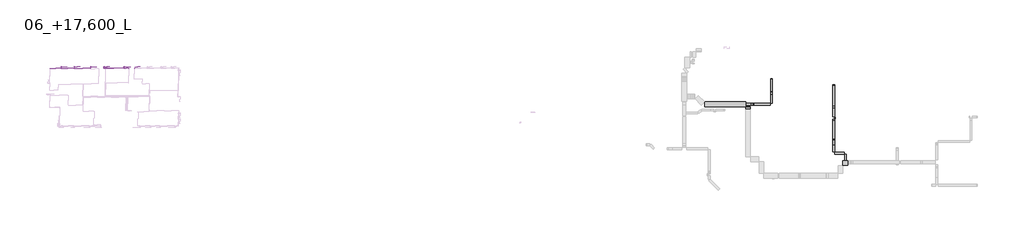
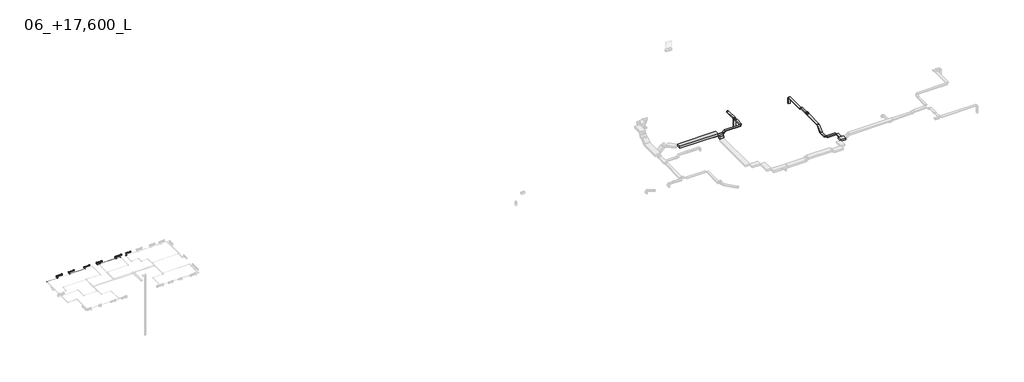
# One storey, part 6 of 7: 26 pipe fittings, 25 duct segments, 22 pipe segments, 6 proxies, 5 valves.
"""IFC4 building model written with IfcOpenShell, lengths in millimetres."""

from ifc_helpers import new_model, si_unit, point, frame, frame_2d, origin, place, context, project, spatial, polyline, circle_curve, trimmed, segment, composite_curve, outline, extrude, transform, mapped, element, save
from components import mechanical_equipment_fc217036, mechanical_equipment_c0c35615, mechanical_equipment_c68842d5, mechanical_equipment_393b7680, pipe_fitting_44bd76dc, pipe_fitting_8f811e63, pipe_fitting_d927fdfb, valve_d3faaedd, valve_8453c3c0

model = new_model("IFC4")

# Units and contexts
model_context = context("Model", 3, world=origin())
ifc_project = project(units=[si_unit("LENGTHUNIT", "METRE", prefix="MILLI")], contexts=[model_context])

# Site, building, storey
site = spatial("IfcSite", under=ifc_project)
building = spatial("IfcBuilding", under=site)
storey = spatial("IfcBuildingStorey", under=building, Name="06_+17,600_L", Elevation=17600.0)

# Proxies
placement = place(None, origin())
mechanical_equipment_shape = mechanical_equipment_fc217036(model_context)
element("IfcBuildingElementProxy", 1, Name="EVRA CV Д : 22-300-1800", ObjectType="EVRA CV Д : 22-300-1800", at=placement, inside=storey, context=model_context, shape_type="MappedRepresentation", body=[
    mapped(mechanical_equipment_shape, transform((67960.0, 128438.5368898, 31400.0), x_axis=(1.0, 0.0, 0.0), y_axis=(0.0, 1.0, 0.0), z_axis=(0.0, 0.0, 1.0))),
])
mechanical_equipment_2_shape = mechanical_equipment_c0c35615(model_context)
element("IfcBuildingElementProxy", 2, Name="EVRA CV Д : 21-300-1600", ObjectType="EVRA CV Д : 21-300-1600", at=placement, inside=storey, context=model_context, shape_type="MappedRepresentation", body=[
    mapped(mechanical_equipment_2_shape, transform((54900.0, 128438.5368898, 31400.0), x_axis=(1.0, 0.0, 0.0), y_axis=(0.0, 1.0, 0.0), z_axis=(0.0, 0.0, 1.0))),
])
element("IfcBuildingElementProxy", 3, Name="EVRA CV Д : 21-300-1600", ObjectType="EVRA CV Д : 21-300-1600", at=placement, inside=storey, context=model_context, shape_type="MappedRepresentation", body=[
    mapped(mechanical_equipment_2_shape, transform((62650.0, 128438.5368898, 31400.0), x_axis=(1.0, 0.0, 0.0), y_axis=(0.0, 1.0, 0.0), z_axis=(0.0, 0.0, 1.0))),
])
mechanical_equipment_3_shape = mechanical_equipment_c68842d5(model_context)
element("IfcBuildingElementProxy", 4, Name="EVRA CV Д : 21-300-1400", ObjectType="EVRA CV Д : 21-300-1400", at=placement, inside=storey, context=model_context, shape_type="MappedRepresentation", body=[
    mapped(mechanical_equipment_3_shape, transform((70700.0, 128438.5368898, 31400.0), x_axis=(1.0, 0.0, 0.0), y_axis=(0.0, 1.0, 0.0), z_axis=(0.0, 0.0, 1.0))),
])
mechanical_equipment_4_shape = mechanical_equipment_393b7680(model_context)
element("IfcBuildingElementProxy", 5, Name="EVRA CV Д : 22-300-1600", ObjectType="EVRA CV Д : 22-300-1600", at=placement, inside=storey, context=model_context, shape_type="MappedRepresentation", body=[
    mapped(mechanical_equipment_4_shape, transform((51500.0, 128438.5368898, 31400.0), x_axis=(1.0, 0.0, 0.0), y_axis=(0.0, 1.0, 0.0), z_axis=(0.0, 0.0, 1.0))),
])
element("IfcBuildingElementProxy", 6, Name="EVRA CV Д : 22-300-1600", ObjectType="EVRA CV Д : 22-300-1600", at=placement, inside=storey, context=model_context, shape_type="MappedRepresentation", body=[
    mapped(mechanical_equipment_4_shape, transform((59200.0, 128438.5368898, 31400.0), x_axis=(1.0, 0.0, 0.0), y_axis=(0.0, 1.0, 0.0), z_axis=(0.0, 0.0, 1.0))),
])

# Duct segments
element("IfcDuctSegment", 7, ObjectType="ADSK_Без огнезащиты_Врезки_ГОСТ 14918-80", at=placement, inside=storey, context=model_context, shape_type="SweptSolid", body=[
    extrude(outline(polyline([(236005.1831845, 121064.9589173), (236505.1831845, 121064.9589173), (236505.1831845, 118934.4589168), (236005.1831845, 118934.4589168), (236005.1831845, 121064.9589173)])), frame((0.0, 0.0, 17149.6001016), z_axis=(0.0, 0.0, 1.0), x_axis=(1.0, 0.0, 0.0)), (0.0, 0.0, 1.0), 250.0),
])
element("IfcDuctSegment", 8, ObjectType="ADSK_Без огнезащиты_Врезки_ГОСТ 14918-80", at=placement, inside=storey, context=model_context, shape_type="SweptSolid", body=[
    extrude(outline(polyline([(250.0, -154.5084972), (250.0, -404.5084972), (-250.0, -404.5084972), (-250.0, -154.5084972), (250.0, -154.5084972)])), frame((252455.1831845, 108326.3575838, 15653.6139595), z_axis=(0.0, 0.7071067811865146, 0.7071067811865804), x_axis=(1.0, 0.0, 0.0)), (0.0, 0.0, 1.0), 1976.3455967),
])
element("IfcDuctSegment", 9, ObjectType="ADSK_Без огнезащиты_Врезки_ГОСТ 14918-80", at=placement, inside=storey, context=model_context, shape_type="SweptSolid", body=[
    extrude(outline(polyline([(0.0, -500.0), (0.0, 0.0), (456.0660172, 0.0), (456.0660172, -500.0), (0.0, -500.0)])), frame((252705.1831845, 117937.8142558, 16837.8679656), z_axis=(0.0, 0.707106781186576, 0.707106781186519), x_axis=(0.0, -0.707106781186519, 0.707106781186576)), (0.0, 0.0, 1.0), 250.0),
])
element("IfcDuctSegment", 10, ObjectType="ADSK_Без огнезащиты_Врезки_ГОСТ 14918-80", at=placement, inside=storey, context=model_context, shape_type="SweptSolid", body=[
    extrude(outline(polyline([(252205.1831845, 123492.4229855), (252705.1831845, 123492.4229855), (252705.1831845, 118149.9462902), (252205.1831845, 118149.9462902), (252205.1831845, 123492.4229855)])), frame((0.0, 0.0, 16750.0), z_axis=(0.0, 0.0, 1.0), x_axis=(1.0, 0.0, 0.0)), (0.0, 0.0, 1.0), 250.0),
])
element("IfcDuctSegment", 11, ObjectType="ADSK_Без огнезащиты_Врезки_ГОСТ 14918-80", at=placement, inside=storey, context=model_context, shape_type="SweptSolid", body=[
    extrude(outline(polyline([(252205.1831845, 123542.4229855), (252205.1831845, 123792.4229855), (252705.1831845, 123792.4229855), (252705.1831845, 123542.4229855), (252205.1831845, 123542.4229855)])), frame((0.0, 0.0, 15000.0), z_axis=(0.0, 0.0, 1.0), x_axis=(1.0, 0.0, 0.0)), (0.0, 0.0, 1.0), 1700.0),
])
element("IfcDuctSegment", 12, ObjectType="ADSK_Без огнезащиты_Врезки_ГОСТ 14918-80", at=placement, inside=storey, context=model_context, shape_type="SweptSolid", body=[
    extrude(outline(polyline([(235955.1831845, 118884.4589168), (235955.1831845, 118384.4589168), (231702.2706596, 118384.4589168), (231702.2706596, 118884.4589168), (235955.1831845, 118884.4589168)])), frame((0.0, 0.0, 17149.6001016), z_axis=(0.0, 0.0, 1.0), x_axis=(1.0, 0.0, 0.0)), (0.0, 0.0, 1.0), 250.0),
])
element("IfcDuctSegment", 13, ObjectType="ADSK_Без огнезащиты_Врезки_ГОСТ 14918-80", at=placement, inside=storey, context=model_context, shape_type="SweptSolid", body=[
    extrude(outline(polyline([(230720.9551889, 117926.0442963), (230720.9551889, 117426.0442963), (229520.9551889, 117426.0442963), (229520.9551889, 117926.0442963), (230720.9551889, 117926.0442963)])), frame((0.0, 0.0, 16200.0), z_axis=(0.0, 0.0, 1.0), x_axis=(1.0, 0.0, 0.0)), (0.0, 0.0, 1.0), 675.0),
])
element("IfcDuctSegment", 14, ObjectType="ADSK_Без огнезащиты_Врезки_ГОСТ 14918-80", at=placement, inside=storey, context=model_context, shape_type="SweptSolid", body=[
    extrude(outline(polyline([(230720.9551889, 117976.0442963), (229520.9551889, 117976.0442963), (229520.9551889, 118009.4589168), (230720.9551889, 118009.4589168), (230720.9551889, 117976.0442963)])), frame((0.0, 0.0, 16925.0), z_axis=(0.0, 0.0, 1.0), x_axis=(1.0, 0.0, 0.0)), (0.0, 0.0, 1.0), 500.0),
])
element("IfcDuctSegment", 15, ObjectType="ADSK_Без огнезащиты_Врезки_ГОСТ 14918-80", at=placement, inside=storey, context=model_context, shape_type="SweptSolid", body=[
    extrude(outline(polyline([(229470.9551889, 119259.4589168), (229470.9551889, 118059.4589168), (218819.4580731, 118059.4589168), (218819.4580731, 119259.4589168), (229470.9551889, 119259.4589168)])), frame((0.0, 0.0, 16925.0), z_axis=(0.0, 0.0, 1.0), x_axis=(1.0, 0.0, 0.0)), (0.0, 0.0, 1.0), 500.0),
])
element("IfcDuctSegment", 16, ObjectType="ADSK_Без огнезащиты_Врезки_ГОСТ 14918-80", at=placement, inside=storey, context=model_context, shape_type="SweptSolid", body=[
    extrude(outline(polyline([(125.0000001, -529.5084972), (-124.9999999, -529.5084972), (-124.9999999, -29.5084972), (125.0000001, -29.5084972), (125.0000001, -529.5084972)])), frame((231006.4394978, 118913.967414, 16651.2563133), z_axis=(0.7071067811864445, 0.0, 0.7071067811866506), x_axis=(0.7071067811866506, 0.0, -0.7071067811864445)), (0.0, 0.0, 1.0), 809.053866),
])
element("IfcDuctSegment", 17, ObjectType="ADSK_Без огнезащиты_Врезки_ГОСТ 14918-80", at=placement, inside=storey, context=model_context, shape_type="SweptSolid", body=[
    extrude(outline(polyline([(228323.0764034, 118384.4589168), (228323.0764034, 118884.4589168), (230882.6958111, 118884.4589168), (230882.6958111, 118384.4589168), (228323.0764034, 118384.4589168)])), frame((0.0, 0.0, 16475.0), z_axis=(0.0, 0.0, 1.0), x_axis=(1.0, 0.0, 0.0)), (0.0, 0.0, 1.0), 250.0),
])
element("IfcDuctSegment", 18, ObjectType="ADSK_Без огнезащиты_Врезки_ГОСТ 14918-80", at=placement, inside=storey, context=model_context, shape_type="SweptSolid", body=[
    extrude(outline(polyline([(228273.0764034, 118384.4589168), (228023.0764034, 118384.4589168), (228023.0764034, 118884.4589168), (228273.0764034, 118884.4589168), (228273.0764034, 118384.4589168)])), frame((0.0, 0.0, 16775.0), z_axis=(0.0, 0.0, 1.0), x_axis=(1.0, 0.0, 0.0)), (0.0, 0.0, 1.0), 130.0),
])
element("IfcDuctSegment", 19, ObjectType="ADSK_Без огнезащиты_Врезки_ГОСТ 14918-80", at=placement, inside=storey, context=model_context, shape_type="SweptSolid", body=[
    extrude(outline(polyline([(236505.1831845, 125252.4963208), (236005.1831845, 125252.4963208), (236005.1831845, 125257.4963208), (236505.1831845, 125257.4963208), (236505.1831845, 125252.4963208)])), frame((0.0, 0.0, 17149.6001016), z_axis=(0.0, 0.0, 1.0), x_axis=(1.0, 0.0, 0.0)), (0.0, 0.0, 1.0), 250.0),
])
element("IfcDuctSegment", 20, ObjectType="ADSK_Без огнезащиты_Врезки_ГОСТ 14918-80", at=placement, inside=storey, context=model_context, shape_type="SweptSolid", body=[
    extrude(outline(polyline([(252860.1831845, 114821.4903348), (252860.1831845, 115321.4903348), (252865.1831845, 115321.4903348), (252865.1831845, 114821.4903348), (252860.1831845, 114821.4903348)])), frame((0.0, 0.0, 17175.0), z_axis=(0.0, 0.0, 1.0), x_axis=(1.0, 0.0, 0.0)), (0.0, 0.0, 1.0), 250.0),
])
element("IfcDuctSegment", 21, ObjectType="ADSK_Без огнезащиты_Врезки_ГОСТ 14918-80", at=placement, inside=storey, context=model_context, shape_type="SweptSolid", body=[
    extrude(outline(polyline([(252705.1831845, 114425.5425232), (252205.1831845, 114425.5425232), (252205.1831845, 114796.4903348), (252705.1831845, 114796.4903348), (252705.1831845, 114425.5425232)])), frame((0.0, 0.0, 17175.0), z_axis=(0.0, 0.0, 1.0), x_axis=(1.0, 0.0, 0.0)), (0.0, 0.0, 1.0), 250.0),
])
element("IfcDuctSegment", 22, ObjectType="ADSK_Без огнезащиты_Врезки_ГОСТ 14918-80", at=placement, inside=storey, context=model_context, shape_type="SweptSolid", body=[
    extrude(outline(polyline([(252730.1831845, 114821.4903348), (252730.1831845, 115321.4903348), (252735.1831845, 115321.4903348), (252735.1831845, 114821.4903348), (252730.1831845, 114821.4903348)])), frame((0.0, 0.0, 17175.0), z_axis=(0.0, 0.0, 1.0), x_axis=(1.0, 0.0, 0.0)), (0.0, 0.0, 1.0), 250.0),
])
element("IfcDuctSegment", 23, ObjectType="ADSK_Без огнезащиты_Врезки_ГОСТ 14918-80", at=placement, inside=storey, context=model_context, shape_type="SweptSolid", body=[
    extrude(outline(polyline([(252205.1831845, 117579.9715434), (252705.1831845, 117579.9715434), (252705.1831845, 115346.4903348), (252205.1831845, 115346.4903348), (252205.1831845, 117579.9715434)])), frame((0.0, 0.0, 17175.0), z_axis=(0.0, 0.0, 1.0), x_axis=(1.0, 0.0, 0.0)), (0.0, 0.0, 1.0), 250.0),
])
element("IfcDuctSegment", 24, ObjectType="ADSK_Без огнезащиты_Врезки_ГОСТ 14918-80", at=placement, inside=storey, context=model_context, shape_type="SweptSolid", body=[
    extrude(outline(polyline([(236505.1831845, 122036.1821747), (236005.1831845, 122036.1821747), (236005.1831845, 125127.4963208), (236505.1831845, 125127.4963208), (236505.1831845, 122036.1821747)])), frame((0.0, 0.0, 17149.6001016), z_axis=(0.0, 0.0, 1.0), x_axis=(1.0, 0.0, 0.0)), (0.0, 0.0, 1.0), 250.0),
])
element("IfcDuctSegment", 25, ObjectType="ADSK_Без огнезащиты_Врезки_ГОСТ 14918-80", at=placement, inside=storey, context=model_context, shape_type="SweptSolid", body=[
    extrude(outline(polyline([(236505.1831845, 122011.1821747), (236505.1831845, 121761.1821747), (236005.1831845, 121761.1821747), (236005.1831845, 122011.1821747), (236505.1831845, 122011.1821747)])), frame((0.0, 0.0, 15000.0), z_axis=(0.0, 0.0, 1.0), x_axis=(1.0, 0.0, 0.0)), (0.0, 0.0, 1.0), 2124.6001016),
])
element("IfcDuctSegment", 26, ObjectType="ADSK_Без огнезащиты_Врезки_ГОСТ 14918-80", at=placement, inside=storey, context=model_context, shape_type="SweptSolid", body=[
    extrude(outline(polyline([(254855.1831845, 102717.4589168), (254855.1831845, 103917.4589168), (256162.6839776, 103917.4589168), (256162.6839776, 102717.4589168), (254855.1831845, 102717.4589168)])), frame((0.0, 0.0, 15650.0), z_axis=(0.0, 0.0, 1.0), x_axis=(1.0, 0.0, 0.0)), (0.0, 0.0, 1.0), 400.0),
])
element("IfcDuctSegment", 27, ObjectType="ADSK_Без огнезащиты_Врезки_ГОСТ 14918-80", at=placement, inside=storey, context=model_context, shape_type="SweptSolid", body=[
    extrude(outline(polyline([(252205.1831845, 108004.9715434), (252705.1831845, 108004.9715434), (252705.1831845, 106196.4840469), (252205.1831845, 106196.4840469), (252205.1831845, 108004.9715434)])), frame((0.0, 0.0, 15675.0), z_axis=(0.0, 0.0, 1.0), x_axis=(1.0, 0.0, 0.0)), (0.0, 0.0, 1.0), 250.0),
])
element("IfcDuctSegment", 28, ObjectType="ADSK_Без огнезащиты_Врезки_ГОСТ 14918-80", at=placement, inside=storey, context=model_context, shape_type="SweptSolid", body=[
    extrude(outline(polyline([(252755.1831845, 105646.4840469), (252755.1831845, 106146.4840469), (255255.1831845, 106146.4840469), (255255.1831845, 105646.4840469), (252755.1831845, 105646.4840469)])), frame((0.0, 0.0, 15675.0), z_axis=(0.0, 0.0, 1.0), x_axis=(1.0, 0.0, 0.0)), (0.0, 0.0, 1.0), 250.0),
])
element("IfcDuctSegment", 29, ObjectType="ADSK_Без огнезащиты_Врезки_ГОСТ 14918-80", at=placement, inside=storey, context=model_context, shape_type="SweptSolid", body=[
    extrude(outline(polyline([(255305.1831845, 105596.4840469), (255805.1831845, 105596.4840469), (255805.1831845, 103937.4589168), (255305.1831845, 103937.4589168), (255305.1831845, 105596.4840469)])), frame((0.0, 0.0, 15675.0), z_axis=(0.0, 0.0, 1.0), x_axis=(1.0, 0.0, 0.0)), (0.0, 0.0, 1.0), 250.0),
])
element("IfcDuctSegment", 30, ObjectType="ADSK_Без огнезащиты_Врезки_ГОСТ 14918-80", at=placement, inside=storey, context=model_context, shape_type="SweptSolid", body=[
    extrude(outline(polyline([(252705.1831845, 109649.9462902), (252205.1831845, 109649.9462902), (252205.1831845, 114300.5425232), (252705.1831845, 114300.5425232), (252705.1831845, 109649.9462902)])), frame((0.0, 0.0, 17175.0), z_axis=(0.0, 0.0, 1.0), x_axis=(1.0, 0.0, 0.0)), (0.0, 0.0, 1.0), 250.0),
])
element("IfcDuctSegment", 31, ObjectType="ADSK_Без огнезащиты_Врезки_ГОСТ 14918-80", at=placement, inside=storey, context=model_context, shape_type="SweptSolid", body=[
    extrude(outline(polyline([(236005.1831845, 121736.1821747), (236505.1831845, 121736.1821747), (236505.1831845, 121189.9589173), (236005.1831845, 121189.9589173), (236005.1831845, 121736.1821747)])), frame((0.0, 0.0, 17149.6001016), z_axis=(0.0, 0.0, 1.0), x_axis=(1.0, 0.0, 0.0)), (0.0, 0.0, 1.0), 250.0),
])

# Pipe fittings
pipe_fitting_shape = pipe_fitting_44bd76dc(model_context)
element("IfcPipeFitting", 32, ObjectType="ADSK_Пресс-фитинг ПЭ_Тройник : Пластик черный", at=placement, inside=storey, context=model_context, shape_type="MappedRepresentation", body=[
    mapped(pipe_fitting_shape, transform((62830.0, 128100.0, 31350.0), x_axis=(-1.0, 0.0, 0.0), y_axis=(0.0, -1.0, 0.0), z_axis=(0.0, 0.0, 1.0))),
])
element("IfcPipeFitting", 33, ObjectType="ADSK_Пресс-фитинг ПЭ_Тройник : Пластик черный", at=placement, inside=storey, context=model_context, shape_type="MappedRepresentation", body=[
    mapped(pipe_fitting_shape, transform((50980.0, 128000.0, 31350.0), x_axis=(-1.0, 0.0, 0.0), y_axis=(0.0, -1.0, 0.0), z_axis=(0.0, 0.0, 1.0))),
])
element("IfcPipeFitting", 34, ObjectType="ADSK_Пресс-фитинг ПЭ_Тройник : Пластик черный", at=placement, inside=storey, context=model_context, shape_type="MappedRepresentation", body=[
    mapped(pipe_fitting_shape, transform((54380.0, 128000.0, 31350.0), x_axis=(-1.0, 0.0, 0.0), y_axis=(0.0, -1.0, 0.0), z_axis=(0.0, 0.0, 1.0))),
])
element("IfcPipeFitting", 35, ObjectType="ADSK_Пресс-фитинг ПЭ_Тройник : Пластик черный", at=placement, inside=storey, context=model_context, shape_type="MappedRepresentation", body=[
    mapped(pipe_fitting_shape, transform((67290.0, 128000.0, 31350.0), x_axis=(-1.0, 0.0, 0.0), y_axis=(0.0, -1.0, 0.0), z_axis=(0.0, 0.0, 1.0))),
])
element("IfcPipeFitting", 36, ObjectType="ADSK_Пресс-фитинг ПЭ_Тройник : Пластик черный", at=placement, inside=storey, context=model_context, shape_type="MappedRepresentation", body=[
    mapped(pipe_fitting_shape, transform((70230.0, 128000.0, 31350.0), x_axis=(-1.0, 0.0, 0.0), y_axis=(0.0, -1.0, 0.0), z_axis=(0.0, 0.0, 1.0))),
])
pipe_fitting_2_shape = pipe_fitting_8f811e63(model_context)
element("IfcPipeFitting", 37, ObjectType="ADSK_Пресс-фитинг ПЭ_Поворот с фиксатором : Поворот трубы", at=placement, inside=storey, context=model_context, shape_type="MappedRepresentation", body=[
    mapped(pipe_fitting_2_shape, transform((47900.0, 128000.0, 31350.0), x_axis=(-1.0, 0.0, 0.0), y_axis=(0.0, -1.0, 0.0), z_axis=(0.0, 0.0, 1.0))),
])
element("IfcPipeFitting", 38, ObjectType="ADSK_Пресс-фитинг ПЭ_Поворот с фиксатором : Поворот трубы", at=placement, inside=storey, context=model_context, shape_type="MappedRepresentation", body=[
    mapped(pipe_fitting_2_shape, transform((68535.0, 128000.0, 31350.0), x_axis=(0.0, 1.0, 0.0), y_axis=(-1.0, 0.0, 0.0), z_axis=(0.0, 0.0, 1.0))),
])
element("IfcPipeFitting", 39, ObjectType="ADSK_Пресс-фитинг ПЭ_Поворот с фиксатором : Поворот трубы", at=placement, inside=storey, context=model_context, shape_type="MappedRepresentation", body=[
    mapped(pipe_fitting_2_shape, transform((69970.0, 128000.0, 31350.0), x_axis=(-1.0, 0.0, 0.0), y_axis=(0.0, -1.0, 0.0), z_axis=(0.0, 0.0, 1.0))),
])
element("IfcPipeFitting", 40, ObjectType="ADSK_Пресс-фитинг ПЭ_Поворот с фиксатором : Поворот трубы", at=placement, inside=storey, context=model_context, shape_type="MappedRepresentation", body=[
    mapped(pipe_fitting_2_shape, transform((62435.0, 128100.0, 31350.0), x_axis=(-1.0, 0.0, 0.0), y_axis=(0.0, -1.0, 0.0), z_axis=(0.0, 0.0, 1.0))),
])
element("IfcPipeFitting", 41, ObjectType="ADSK_Пресс-фитинг ПЭ_Поворот с фиксатором : Поворот трубы", at=placement, inside=storey, context=model_context, shape_type="MappedRepresentation", body=[
    mapped(pipe_fitting_2_shape, transform((62830.0, 128248.0, 31350.0), x_axis=(0.0, 1.0, 0.0), y_axis=(-1.0, 0.0, 0.0), z_axis=(0.0, 0.0, 1.0))),
])
element("IfcPipeFitting", 42, ObjectType="ADSK_Пресс-фитинг ПЭ_Поворот с фиксатором : Поворот трубы", at=placement, inside=storey, context=model_context, shape_type="MappedRepresentation", body=[
    mapped(pipe_fitting_2_shape, transform((62130.0, 128248.0, 31350.0), x_axis=(0.0, -1.0, 0.0), y_axis=(1.0, 0.0, 0.0), z_axis=(0.0, 0.0, 1.0))),
])
element("IfcPipeFitting", 43, ObjectType="ADSK_Пресс-фитинг ПЭ_Поворот с фиксатором : Поворот трубы", at=placement, inside=storey, context=model_context, shape_type="MappedRepresentation", body=[
    mapped(pipe_fitting_2_shape, transform((58680.0, 128000.0, 31350.0), x_axis=(1.0, 0.0, 0.0), y_axis=(0.0, 1.0, 0.0), z_axis=(0.0, 0.0, 1.0))),
])
element("IfcPipeFitting", 44, ObjectType="ADSK_Пресс-фитинг ПЭ_Поворот с фиксатором : Поворот трубы", at=placement, inside=storey, context=model_context, shape_type="MappedRepresentation", body=[
    mapped(pipe_fitting_2_shape, transform((67340.0, 128100.0, 31350.0), x_axis=(1.0, 0.0, 0.0), y_axis=(0.0, 1.0, 0.0), z_axis=(0.0, 0.0, 1.0))),
])
element("IfcPipeFitting", 45, ObjectType="ADSK_Пресс-фитинг ПЭ_Поворот с фиксатором : Поворот трубы", at=placement, inside=storey, context=model_context, shape_type="MappedRepresentation", body=[
    mapped(pipe_fitting_2_shape, transform((70280.0, 128100.0, 31350.0), x_axis=(0.0, -1.0, 0.0), y_axis=(1.0, 0.0, 0.0), z_axis=(0.0, 0.0, 1.0))),
])
element("IfcPipeFitting", 46, ObjectType="ADSK_Пресс-фитинг ПЭ_Поворот с фиксатором : Поворот трубы", at=placement, inside=storey, context=model_context, shape_type="MappedRepresentation", body=[
    mapped(pipe_fitting_2_shape, transform((62080.0, 128000.0, 31350.0), x_axis=(0.0, -1.0, 0.0), y_axis=(1.0, 0.0, 0.0), z_axis=(0.0, 0.0, 1.0))),
])
pipe_fitting_3_shape = pipe_fitting_d927fdfb(model_context)
element("IfcPipeFitting", 47, ObjectType="Трубка Г-образная VTm.481.PC из стены : VTm.481.PC", at=placement, inside=storey, context=model_context, shape_type="MappedRepresentation", body=[
    mapped(pipe_fitting_3_shape, transform((67290.0, 128488.0, 31350.0), x_axis=(1.0, 0.0, 0.0), y_axis=(0.0, 1.0, 0.0), z_axis=(0.0, 0.0, 1.0))),
])
element("IfcPipeFitting", 48, ObjectType="Трубка Г-образная VTm.481.PC из стены : VTm.481.PC", at=placement, inside=storey, context=model_context, shape_type="MappedRepresentation", body=[
    mapped(pipe_fitting_3_shape, transform((70230.0, 128488.0, 31350.0), x_axis=(1.0, 0.0, 0.0), y_axis=(0.0, 1.0, 0.0), z_axis=(0.0, 0.0, 1.0))),
])
element("IfcPipeFitting", 49, ObjectType="Трубка Г-образная VTm.481.PC из стены : VTm.481.PC", at=placement, inside=storey, context=model_context, shape_type="MappedRepresentation", body=[
    mapped(pipe_fitting_3_shape, transform((50930.0, 128488.0, 31350.0), x_axis=(1.0, 0.0, 0.0), y_axis=(0.0, 1.0, 0.0), z_axis=(0.0, 0.0, 1.0))),
])
element("IfcPipeFitting", 50, ObjectType="Трубка Г-образная VTm.481.PC из стены : VTm.481.PC", at=placement, inside=storey, context=model_context, shape_type="MappedRepresentation", body=[
    mapped(pipe_fitting_3_shape, transform((54330.0, 128488.0, 31350.0), x_axis=(1.0, 0.0, 0.0), y_axis=(0.0, 1.0, 0.0), z_axis=(0.0, 0.0, 1.0))),
])
element("IfcPipeFitting", 51, ObjectType="Трубка Г-образная VTm.481.PC из стены : VTm.481.PC", at=placement, inside=storey, context=model_context, shape_type="MappedRepresentation", body=[
    mapped(pipe_fitting_3_shape, transform((58630.0, 128488.0, 31350.0), x_axis=(1.0, 0.0, 0.0), y_axis=(0.0, 1.0, 0.0), z_axis=(0.0, 0.0, 1.0))),
])
element("IfcPipeFitting", 52, ObjectType="Трубка Г-образная VTm.481.PC из стены : VTm.481.PC", at=placement, inside=storey, context=model_context, shape_type="MappedRepresentation", body=[
    mapped(pipe_fitting_3_shape, transform((62080.0, 128488.0, 31350.0), x_axis=(1.0, 0.0, 0.0), y_axis=(0.0, 1.0, 0.0), z_axis=(0.0, 0.0, 1.0))),
])
element("IfcPipeFitting", 53, ObjectType="Трубка Г-образная VTm.481.PC из стены : VTm.481.PC", at=placement, inside=storey, context=model_context, shape_type="MappedRepresentation", body=[
    mapped(pipe_fitting_3_shape, transform((67340.0, 128488.0, 31350.0), x_axis=(1.0, 0.0, 0.0), y_axis=(0.0, 1.0, 0.0), z_axis=(0.0, 0.0, 1.0))),
])
element("IfcPipeFitting", 54, ObjectType="Трубка Г-образная VTm.481.PC из стены : VTm.481.PC", at=placement, inside=storey, context=model_context, shape_type="MappedRepresentation", body=[
    mapped(pipe_fitting_3_shape, transform((50980.0, 128488.0, 31350.0), x_axis=(1.0, 0.0, 0.0), y_axis=(0.0, 1.0, 0.0), z_axis=(0.0, 0.0, 1.0))),
])
element("IfcPipeFitting", 55, ObjectType="Трубка Г-образная VTm.481.PC из стены : VTm.481.PC", at=placement, inside=storey, context=model_context, shape_type="MappedRepresentation", body=[
    mapped(pipe_fitting_3_shape, transform((54380.0, 128488.0, 31350.0), x_axis=(1.0, 0.0, 0.0), y_axis=(0.0, 1.0, 0.0), z_axis=(0.0, 0.0, 1.0))),
])
element("IfcPipeFitting", 56, ObjectType="Трубка Г-образная VTm.481.PC из стены : VTm.481.PC", at=placement, inside=storey, context=model_context, shape_type="MappedRepresentation", body=[
    mapped(pipe_fitting_3_shape, transform((58680.0, 128488.0, 31350.0), x_axis=(1.0, 0.0, 0.0), y_axis=(0.0, 1.0, 0.0), z_axis=(0.0, 0.0, 1.0))),
])
element("IfcPipeFitting", 57, ObjectType="Трубка Г-образная VTm.481.PC из стены : VTm.481.PC", at=placement, inside=storey, context=model_context, shape_type="MappedRepresentation", body=[
    mapped(pipe_fitting_3_shape, transform((62130.0, 128488.0, 31350.0), x_axis=(1.0, 0.0, 0.0), y_axis=(0.0, 1.0, 0.0), z_axis=(0.0, 0.0, 1.0))),
])

# Pipe segments
element("IfcPipeSegment", 58, ObjectType="ADSK_Полиэтилен сшитый", at=placement, inside=storey, context=model_context, shape_type="SweptSolid", body=[
    extrude(outline(composite_curve([segment(trimmed(circle_curve(frame_2d((31350.0, 58680.0)), 8.0), [point((31350.0, 58688.0))], [point((31358.0, 58680.0))], False, "CARTESIAN"), True, "CONTINUOUS"), segment(trimmed(circle_curve(frame_2d((31350.0, 58680.0)), 8.0), [point((31358.0, 58680.0))], [point((31350.0, 58672.0))], False, "CARTESIAN"), True, "CONTINUOUS"), segment(trimmed(circle_curve(frame_2d((31350.0, 58680.0)), 8.0), [point((31350.0, 58672.0))], [point((31342.0, 58680.0))], False, "CARTESIAN"), True, "CONTINUOUS"), segment(trimmed(circle_curve(frame_2d((31350.0, 58680.0)), 8.0), [point((31342.0, 58680.0))], [point((31350.0, 58688.0))], False, "CARTESIAN"), True, "CONTINUOUS")], self_intersect=False)), frame((0.0, 128048.0, 0.0), z_axis=(0.0, 1.0, 0.0), x_axis=(0.0, 0.0, 1.0)), (0.0, 0.0, 1.0), 325.0),
])
element("IfcPipeSegment", 59, ObjectType="ADSK_Полиэтилен сшитый", at=placement, inside=storey, context=model_context, shape_type="SweptSolid", body=[
    extrude(outline(composite_curve([segment(trimmed(circle_curve(frame_2d((31350.0, 58630.0)), 8.0), [point((31350.0, 58638.0))], [point((31358.0, 58630.0))], False, "CARTESIAN"), True, "CONTINUOUS"), segment(trimmed(circle_curve(frame_2d((31350.0, 58630.0)), 8.0), [point((31358.0, 58630.0))], [point((31350.0, 58622.0))], False, "CARTESIAN"), True, "CONTINUOUS"), segment(trimmed(circle_curve(frame_2d((31350.0, 58630.0)), 8.0), [point((31350.0, 58622.0))], [point((31342.0, 58630.0))], False, "CARTESIAN"), True, "CONTINUOUS"), segment(trimmed(circle_curve(frame_2d((31350.0, 58630.0)), 8.0), [point((31342.0, 58630.0))], [point((31350.0, 58638.0))], False, "CARTESIAN"), True, "CONTINUOUS")], self_intersect=False)), frame((0.0, 127926.0, 0.0), z_axis=(0.0, 1.0, 0.0), x_axis=(0.0, 0.0, 1.0)), (0.0, 0.0, 1.0), 447.0),
])
element("IfcPipeSegment", 60, ObjectType="ADSK_Полиэтилен сшитый", at=placement, inside=storey, context=model_context, shape_type="SweptSolid", body=[
    extrude(outline(composite_curve([segment(trimmed(circle_curve(frame_2d((128000.0, 31350.0)), 8.0), [point((127992.0, 31350.0))], [point((128000.0, 31358.0))], False, "CARTESIAN"), True, "CONTINUOUS"), segment(trimmed(circle_curve(frame_2d((128000.0, 31350.0)), 8.0), [point((128000.0, 31358.0))], [point((128008.0, 31350.0))], False, "CARTESIAN"), True, "CONTINUOUS"), segment(trimmed(circle_curve(frame_2d((128000.0, 31350.0)), 8.0), [point((128008.0, 31350.0))], [point((128000.0, 31342.0))], False, "CARTESIAN"), True, "CONTINUOUS"), segment(trimmed(circle_curve(frame_2d((128000.0, 31350.0)), 8.0), [point((128000.0, 31342.0))], [point((127992.0, 31350.0))], False, "CARTESIAN"), True, "CONTINUOUS")], self_intersect=False)), frame((54400.0, 0.0, 0.0), z_axis=(1.0, 0.0, 0.0), x_axis=(0.0, 1.0, 0.0)), (0.0, 0.0, 1.0), 4232.0),
])
element("IfcPipeSegment", 61, ObjectType="ADSK_Полиэтилен сшитый", at=placement, inside=storey, context=model_context, shape_type="SweptSolid", body=[
    extrude(outline(composite_curve([segment(trimmed(circle_curve(frame_2d((31350.0, 54380.0)), 8.0), [point((31350.0, 54388.0))], [point((31358.0, 54380.0))], False, "CARTESIAN"), True, "CONTINUOUS"), segment(trimmed(circle_curve(frame_2d((31350.0, 54380.0)), 8.0), [point((31358.0, 54380.0))], [point((31350.0, 54372.0))], False, "CARTESIAN"), True, "CONTINUOUS"), segment(trimmed(circle_curve(frame_2d((31350.0, 54380.0)), 8.0), [point((31350.0, 54372.0))], [point((31342.0, 54380.0))], False, "CARTESIAN"), True, "CONTINUOUS"), segment(trimmed(circle_curve(frame_2d((31350.0, 54380.0)), 8.0), [point((31342.0, 54380.0))], [point((31350.0, 54388.0))], False, "CARTESIAN"), True, "CONTINUOUS")], self_intersect=False)), frame((0.0, 128024.0, 0.0), z_axis=(0.0, 1.0, 0.0), x_axis=(0.0, 0.0, 1.0)), (0.0, 0.0, 1.0), 349.0),
])
element("IfcPipeSegment", 62, ObjectType="ADSK_Полиэтилен сшитый", at=placement, inside=storey, context=model_context, shape_type="SweptSolid", body=[
    extrude(outline(composite_curve([segment(trimmed(circle_curve(frame_2d((31350.0, 54330.0)), 8.0), [point((31350.0, 54338.0))], [point((31358.0, 54330.0))], False, "CARTESIAN"), True, "CONTINUOUS"), segment(trimmed(circle_curve(frame_2d((31350.0, 54330.0)), 8.0), [point((31358.0, 54330.0))], [point((31350.0, 54322.0))], False, "CARTESIAN"), True, "CONTINUOUS"), segment(trimmed(circle_curve(frame_2d((31350.0, 54330.0)), 8.0), [point((31350.0, 54322.0))], [point((31342.0, 54330.0))], False, "CARTESIAN"), True, "CONTINUOUS"), segment(trimmed(circle_curve(frame_2d((31350.0, 54330.0)), 8.0), [point((31342.0, 54330.0))], [point((31350.0, 54338.0))], False, "CARTESIAN"), True, "CONTINUOUS")], self_intersect=False)), frame((0.0, 127924.0, 0.0), z_axis=(0.0, 1.0, 0.0), x_axis=(0.0, 0.0, 1.0)), (0.0, 0.0, 1.0), 449.0),
])
element("IfcPipeSegment", 63, ObjectType="ADSK_Полиэтилен сшитый", at=placement, inside=storey, context=model_context, shape_type="SweptSolid", body=[
    extrude(outline(composite_curve([segment(trimmed(circle_curve(frame_2d((31350.0, 50980.0)), 8.0), [point((31350.0, 50988.0))], [point((31358.0, 50980.0))], False, "CARTESIAN"), True, "CONTINUOUS"), segment(trimmed(circle_curve(frame_2d((31350.0, 50980.0)), 8.0), [point((31358.0, 50980.0))], [point((31350.0, 50972.0))], False, "CARTESIAN"), True, "CONTINUOUS"), segment(trimmed(circle_curve(frame_2d((31350.0, 50980.0)), 8.0), [point((31350.0, 50972.0))], [point((31342.0, 50980.0))], False, "CARTESIAN"), True, "CONTINUOUS"), segment(trimmed(circle_curve(frame_2d((31350.0, 50980.0)), 8.0), [point((31342.0, 50980.0))], [point((31350.0, 50988.0))], False, "CARTESIAN"), True, "CONTINUOUS")], self_intersect=False)), frame((0.0, 128026.0, 0.0), z_axis=(0.0, 1.0, 0.0), x_axis=(0.0, 0.0, 1.0)), (0.0, 0.0, 1.0), 347.0),
])
element("IfcPipeSegment", 64, ObjectType="ADSK_Полиэтилен сшитый", at=placement, inside=storey, context=model_context, shape_type="SweptSolid", body=[
    extrude(outline(composite_curve([segment(trimmed(circle_curve(frame_2d((31350.0, 50930.0)), 8.0), [point((31350.0, 50938.0))], [point((31358.0, 50930.0))], False, "CARTESIAN"), True, "CONTINUOUS"), segment(trimmed(circle_curve(frame_2d((31350.0, 50930.0)), 8.0), [point((31358.0, 50930.0))], [point((31350.0, 50922.0))], False, "CARTESIAN"), True, "CONTINUOUS"), segment(trimmed(circle_curve(frame_2d((31350.0, 50930.0)), 8.0), [point((31350.0, 50922.0))], [point((31342.0, 50930.0))], False, "CARTESIAN"), True, "CONTINUOUS"), segment(trimmed(circle_curve(frame_2d((31350.0, 50930.0)), 8.0), [point((31342.0, 50930.0))], [point((31350.0, 50938.0))], False, "CARTESIAN"), True, "CONTINUOUS")], self_intersect=False)), frame((0.0, 127924.0, 0.0), z_axis=(0.0, 1.0, 0.0), x_axis=(0.0, 0.0, 1.0)), (0.0, 0.0, 1.0), 449.0),
])
element("IfcPipeSegment", 65, ObjectType="ADSK_Полиэтилен сшитый", at=placement, inside=storey, context=model_context, shape_type="SweptSolid", body=[
    extrude(outline(composite_curve([segment(trimmed(circle_curve(frame_2d((31350.0, 62830.0)), 8.0), [point((31350.0, 62838.0))], [point((31358.0, 62830.0))], False, "CARTESIAN"), True, "CONTINUOUS"), segment(trimmed(circle_curve(frame_2d((31350.0, 62830.0)), 8.0), [point((31358.0, 62830.0))], [point((31350.0, 62822.0))], False, "CARTESIAN"), True, "CONTINUOUS"), segment(trimmed(circle_curve(frame_2d((31350.0, 62830.0)), 8.0), [point((31350.0, 62822.0))], [point((31342.0, 62830.0))], False, "CARTESIAN"), True, "CONTINUOUS"), segment(trimmed(circle_curve(frame_2d((31350.0, 62830.0)), 8.0), [point((31342.0, 62830.0))], [point((31350.0, 62838.0))], False, "CARTESIAN"), True, "CONTINUOUS")], self_intersect=False)), frame((0.0, 128124.0, 0.0), z_axis=(0.0, 1.0, 0.0), x_axis=(0.0, 0.0, 1.0)), (0.0, 0.0, 1.0), 76.0),
])
element("IfcPipeSegment", 66, ObjectType="ADSK_Полиэтилен сшитый", at=placement, inside=storey, context=model_context, shape_type="SweptSolid", body=[
    extrude(outline(composite_curve([segment(trimmed(circle_curve(frame_2d((128100.0, 31350.0)), 8.0), [point((128092.0, 31350.0))], [point((128100.0, 31358.0))], False, "CARTESIAN"), True, "CONTINUOUS"), segment(trimmed(circle_curve(frame_2d((128100.0, 31350.0)), 8.0), [point((128100.0, 31358.0))], [point((128108.0, 31350.0))], False, "CARTESIAN"), True, "CONTINUOUS"), segment(trimmed(circle_curve(frame_2d((128100.0, 31350.0)), 8.0), [point((128108.0, 31350.0))], [point((128100.0, 31342.0))], False, "CARTESIAN"), True, "CONTINUOUS"), segment(trimmed(circle_curve(frame_2d((128100.0, 31350.0)), 8.0), [point((128100.0, 31342.0))], [point((128092.0, 31350.0))], False, "CARTESIAN"), True, "CONTINUOUS")], self_intersect=False)), frame((62483.0, 0.0, 0.0), z_axis=(1.0, 0.0, 0.0), x_axis=(0.0, 1.0, 0.0)), (0.0, 0.0, 1.0), 327.0),
])
element("IfcPipeSegment", 67, ObjectType="ADSK_Полиэтилен сшитый", at=placement, inside=storey, context=model_context, shape_type="SweptSolid", body=[
    extrude(outline(composite_curve([segment(trimmed(circle_curve(frame_2d((128000.0, 31350.0)), 8.0), [point((127992.0, 31350.0))], [point((128000.0, 31358.0))], False, "CARTESIAN"), True, "CONTINUOUS"), segment(trimmed(circle_curve(frame_2d((128000.0, 31350.0)), 8.0), [point((128000.0, 31358.0))], [point((128008.0, 31350.0))], False, "CARTESIAN"), True, "CONTINUOUS"), segment(trimmed(circle_curve(frame_2d((128000.0, 31350.0)), 8.0), [point((128008.0, 31350.0))], [point((128000.0, 31342.0))], False, "CARTESIAN"), True, "CONTINUOUS"), segment(trimmed(circle_curve(frame_2d((128000.0, 31350.0)), 8.0), [point((128000.0, 31342.0))], [point((127992.0, 31350.0))], False, "CARTESIAN"), True, "CONTINUOUS")], self_intersect=False)), frame((62128.0, 0.0, 0.0), z_axis=(1.0, 0.0, 0.0), x_axis=(0.0, 1.0, 0.0)), (0.0, 0.0, 1.0), 5142.0),
])
element("IfcPipeSegment", 68, ObjectType="ADSK_Полиэтилен сшитый", at=placement, inside=storey, context=model_context, shape_type="SweptSolid", body=[
    extrude(outline(composite_curve([segment(trimmed(circle_curve(frame_2d((31350.0, 67340.0)), 8.0), [point((31350.0, 67348.0))], [point((31358.0, 67340.0))], False, "CARTESIAN"), True, "CONTINUOUS"), segment(trimmed(circle_curve(frame_2d((31350.0, 67340.0)), 8.0), [point((31358.0, 67340.0))], [point((31350.0, 67332.0))], False, "CARTESIAN"), True, "CONTINUOUS"), segment(trimmed(circle_curve(frame_2d((31350.0, 67340.0)), 8.0), [point((31350.0, 67332.0))], [point((31342.0, 67340.0))], False, "CARTESIAN"), True, "CONTINUOUS"), segment(trimmed(circle_curve(frame_2d((31350.0, 67340.0)), 8.0), [point((31342.0, 67340.0))], [point((31350.0, 67348.0))], False, "CARTESIAN"), True, "CONTINUOUS")], self_intersect=False)), frame((0.0, 128148.0, 0.0), z_axis=(0.0, 1.0, 0.0), x_axis=(0.0, 0.0, 1.0)), (0.0, 0.0, 1.0), 225.0),
])
element("IfcPipeSegment", 69, ObjectType="ADSK_Полиэтилен сшитый", at=placement, inside=storey, context=model_context, shape_type="SweptSolid", body=[
    extrude(outline(composite_curve([segment(trimmed(circle_curve(frame_2d((128100.0, 31350.0)), 8.0), [point((128092.0, 31350.0))], [point((128100.0, 31358.0))], False, "CARTESIAN"), True, "CONTINUOUS"), segment(trimmed(circle_curve(frame_2d((128100.0, 31350.0)), 8.0), [point((128100.0, 31358.0))], [point((128108.0, 31350.0))], False, "CARTESIAN"), True, "CONTINUOUS"), segment(trimmed(circle_curve(frame_2d((128100.0, 31350.0)), 8.0), [point((128108.0, 31350.0))], [point((128100.0, 31342.0))], False, "CARTESIAN"), True, "CONTINUOUS"), segment(trimmed(circle_curve(frame_2d((128100.0, 31350.0)), 8.0), [point((128100.0, 31342.0))], [point((128092.0, 31350.0))], False, "CARTESIAN"), True, "CONTINUOUS")], self_intersect=False)), frame((62850.0, 0.0, 0.0), z_axis=(1.0, 0.0, 0.0), x_axis=(0.0, 1.0, 0.0)), (0.0, 0.0, 1.0), 4442.0),
])
element("IfcPipeSegment", 70, ObjectType="ADSK_Полиэтилен сшитый", at=placement, inside=storey, context=model_context, shape_type="SweptSolid", body=[
    extrude(outline(composite_curve([segment(trimmed(circle_curve(frame_2d((31350.0, 67290.0)), 8.0), [point((31350.0, 67298.0))], [point((31358.0, 67290.0))], False, "CARTESIAN"), True, "CONTINUOUS"), segment(trimmed(circle_curve(frame_2d((31350.0, 67290.0)), 8.0), [point((31358.0, 67290.0))], [point((31350.0, 67282.0))], False, "CARTESIAN"), True, "CONTINUOUS"), segment(trimmed(circle_curve(frame_2d((31350.0, 67290.0)), 8.0), [point((31350.0, 67282.0))], [point((31342.0, 67290.0))], False, "CARTESIAN"), True, "CONTINUOUS"), segment(trimmed(circle_curve(frame_2d((31350.0, 67290.0)), 8.0), [point((31342.0, 67290.0))], [point((31350.0, 67298.0))], False, "CARTESIAN"), True, "CONTINUOUS")], self_intersect=False)), frame((0.0, 128024.0, 0.0), z_axis=(0.0, 1.0, 0.0), x_axis=(0.0, 0.0, 1.0)), (0.0, 0.0, 1.0), 349.0),
])
element("IfcPipeSegment", 71, ObjectType="ADSK_Полиэтилен сшитый", at=placement, inside=storey, context=model_context, shape_type="SweptSolid", body=[
    extrude(outline(composite_curve([segment(trimmed(circle_curve(frame_2d((31350.0, 70280.0)), 8.0), [point((31350.0, 70288.0))], [point((31358.0, 70280.0))], False, "CARTESIAN"), True, "CONTINUOUS"), segment(trimmed(circle_curve(frame_2d((31350.0, 70280.0)), 8.0), [point((31358.0, 70280.0))], [point((31350.0, 70272.0))], False, "CARTESIAN"), True, "CONTINUOUS"), segment(trimmed(circle_curve(frame_2d((31350.0, 70280.0)), 8.0), [point((31350.0, 70272.0))], [point((31342.0, 70280.0))], False, "CARTESIAN"), True, "CONTINUOUS"), segment(trimmed(circle_curve(frame_2d((31350.0, 70280.0)), 8.0), [point((31342.0, 70280.0))], [point((31350.0, 70288.0))], False, "CARTESIAN"), True, "CONTINUOUS")], self_intersect=False)), frame((0.0, 128148.0, 0.0), z_axis=(0.0, 1.0, 0.0), x_axis=(0.0, 0.0, 1.0)), (0.0, 0.0, 1.0), 225.0),
])
element("IfcPipeSegment", 72, ObjectType="ADSK_Полиэтилен сшитый", at=placement, inside=storey, context=model_context, shape_type="SweptSolid", body=[
    extrude(outline(composite_curve([segment(trimmed(circle_curve(frame_2d((31350.0, 70230.0)), 8.0), [point((31350.0, 70238.0))], [point((31358.0, 70230.0))], False, "CARTESIAN"), True, "CONTINUOUS"), segment(trimmed(circle_curve(frame_2d((31350.0, 70230.0)), 8.0), [point((31358.0, 70230.0))], [point((31350.0, 70222.0))], False, "CARTESIAN"), True, "CONTINUOUS"), segment(trimmed(circle_curve(frame_2d((31350.0, 70230.0)), 8.0), [point((31350.0, 70222.0))], [point((31342.0, 70230.0))], False, "CARTESIAN"), True, "CONTINUOUS"), segment(trimmed(circle_curve(frame_2d((31350.0, 70230.0)), 8.0), [point((31342.0, 70230.0))], [point((31350.0, 70238.0))], False, "CARTESIAN"), True, "CONTINUOUS")], self_intersect=False)), frame((0.0, 128024.0, 0.0), z_axis=(0.0, 1.0, 0.0), x_axis=(0.0, 0.0, 1.0)), (0.0, 0.0, 1.0), 349.0),
])
element("IfcPipeSegment", 73, ObjectType="ADSK_Полиэтилен сшитый", at=placement, inside=storey, context=model_context, shape_type="SweptSolid", body=[
    extrude(outline(composite_curve([segment(trimmed(circle_curve(frame_2d((31350.0, 62080.0)), 8.0), [point((31350.0, 62072.0))], [point((31342.0, 62080.0))], False, "CARTESIAN"), True, "CONTINUOUS"), segment(trimmed(circle_curve(frame_2d((31350.0, 62080.0)), 8.0), [point((31342.0, 62080.0))], [point((31350.0, 62088.0))], False, "CARTESIAN"), True, "CONTINUOUS"), segment(trimmed(circle_curve(frame_2d((31350.0, 62080.0)), 8.0), [point((31350.0, 62088.0))], [point((31358.0, 62080.0))], False, "CARTESIAN"), True, "CONTINUOUS"), segment(trimmed(circle_curve(frame_2d((31350.0, 62080.0)), 8.0), [point((31358.0, 62080.0))], [point((31350.0, 62072.0))], False, "CARTESIAN"), True, "CONTINUOUS")], self_intersect=False)), frame((0.0, 128048.0, 0.0), z_axis=(0.0, 1.0, 0.0), x_axis=(0.0, 0.0, 1.0)), (0.0, 0.0, 1.0), 325.0),
])
element("IfcPipeSegment", 74, ObjectType="ADSK_Полиэтилен сшитый", at=placement, inside=storey, context=model_context, shape_type="SweptSolid", body=[
    extrude(outline(composite_curve([segment(trimmed(circle_curve(frame_2d((31350.0, 62130.0)), 8.0), [point((31350.0, 62122.0))], [point((31342.0, 62130.0))], False, "CARTESIAN"), True, "CONTINUOUS"), segment(trimmed(circle_curve(frame_2d((31350.0, 62130.0)), 8.0), [point((31342.0, 62130.0))], [point((31350.0, 62138.0))], False, "CARTESIAN"), True, "CONTINUOUS"), segment(trimmed(circle_curve(frame_2d((31350.0, 62130.0)), 8.0), [point((31350.0, 62138.0))], [point((31358.0, 62130.0))], False, "CARTESIAN"), True, "CONTINUOUS"), segment(trimmed(circle_curve(frame_2d((31350.0, 62130.0)), 8.0), [point((31358.0, 62130.0))], [point((31350.0, 62122.0))], False, "CARTESIAN"), True, "CONTINUOUS")], self_intersect=False)), frame((0.0, 128296.0, 0.0), z_axis=(0.0, 1.0, 0.0), x_axis=(0.0, 0.0, 1.0)), (0.0, 0.0, 1.0), 77.0),
])
element("IfcPipeSegment", 75, ObjectType="ADSK_Полиэтилен сшитый", at=placement, inside=storey, context=model_context, shape_type="SweptSolid", body=[
    extrude(outline(composite_curve([segment(trimmed(circle_curve(frame_2d((128248.0, 31350.0)), 8.0), [point((128256.0, 31350.0))], [point((128248.0, 31342.0))], False, "CARTESIAN"), True, "CONTINUOUS"), segment(trimmed(circle_curve(frame_2d((128248.0, 31350.0)), 8.0), [point((128248.0, 31342.0))], [point((128240.0, 31350.0))], False, "CARTESIAN"), True, "CONTINUOUS"), segment(trimmed(circle_curve(frame_2d((128248.0, 31350.0)), 8.0), [point((128240.0, 31350.0))], [point((128248.0, 31358.0))], False, "CARTESIAN"), True, "CONTINUOUS"), segment(trimmed(circle_curve(frame_2d((128248.0, 31350.0)), 8.0), [point((128248.0, 31358.0))], [point((128256.0, 31350.0))], False, "CARTESIAN"), True, "CONTINUOUS")], self_intersect=False)), frame((62178.0, 0.0, 0.0), z_axis=(1.0, 0.0, 0.0), x_axis=(0.0, 1.0, 0.0)), (0.0, 0.0, 1.0), 604.0),
])
element("IfcPipeSegment", 76, ObjectType="ADSK_Полиэтилен сшитый", at=placement, inside=storey, context=model_context, shape_type="SweptSolid", body=[
    extrude(outline(composite_curve([segment(trimmed(circle_curve(frame_2d((128000.0, 31350.0)), 8.0), [point((127992.0, 31350.0))], [point((128000.0, 31358.0))], False, "CARTESIAN"), True, "CONTINUOUS"), segment(trimmed(circle_curve(frame_2d((128000.0, 31350.0)), 8.0), [point((128000.0, 31358.0))], [point((128008.0, 31350.0))], False, "CARTESIAN"), True, "CONTINUOUS"), segment(trimmed(circle_curve(frame_2d((128000.0, 31350.0)), 8.0), [point((128008.0, 31350.0))], [point((128000.0, 31342.0))], False, "CARTESIAN"), True, "CONTINUOUS"), segment(trimmed(circle_curve(frame_2d((128000.0, 31350.0)), 8.0), [point((128000.0, 31342.0))], [point((127992.0, 31350.0))], False, "CARTESIAN"), True, "CONTINUOUS")], self_intersect=False)), frame((47948.0, 0.0, 0.0), z_axis=(1.0, 0.0, 0.0), x_axis=(0.0, 1.0, 0.0)), (0.0, 0.0, 1.0), 3013.0),
])
element("IfcPipeSegment", 77, ObjectType="ADSK_Полиэтилен сшитый", at=placement, inside=storey, context=model_context, shape_type="SweptSolid", body=[
    extrude(outline(composite_curve([segment(trimmed(circle_curve(frame_2d((128000.0, 31350.0)), 8.0), [point((127992.0, 31350.0))], [point((128000.0, 31358.0))], False, "CARTESIAN"), True, "CONTINUOUS"), segment(trimmed(circle_curve(frame_2d((128000.0, 31350.0)), 8.0), [point((128000.0, 31358.0))], [point((128008.0, 31350.0))], False, "CARTESIAN"), True, "CONTINUOUS"), segment(trimmed(circle_curve(frame_2d((128000.0, 31350.0)), 8.0), [point((128008.0, 31350.0))], [point((128000.0, 31342.0))], False, "CARTESIAN"), True, "CONTINUOUS"), segment(trimmed(circle_curve(frame_2d((128000.0, 31350.0)), 8.0), [point((128000.0, 31342.0))], [point((127992.0, 31350.0))], False, "CARTESIAN"), True, "CONTINUOUS")], self_intersect=False)), frame((50999.0, 0.0, 0.0), z_axis=(1.0, 0.0, 0.0), x_axis=(0.0, 1.0, 0.0)), (0.0, 0.0, 1.0), 3361.0),
])
element("IfcPipeSegment", 78, ObjectType="ADSK_Полиэтилен сшитый", at=placement, inside=storey, context=model_context, shape_type="SweptSolid", body=[
    extrude(outline(composite_curve([segment(trimmed(circle_curve(frame_2d((128000.0, 31350.0)), 8.0), [point((128008.0, 31350.0))], [point((128000.0, 31342.0))], False, "CARTESIAN"), True, "CONTINUOUS"), segment(trimmed(circle_curve(frame_2d((128000.0, 31350.0)), 8.0), [point((128000.0, 31342.0))], [point((127992.0, 31350.0))], False, "CARTESIAN"), True, "CONTINUOUS"), segment(trimmed(circle_curve(frame_2d((128000.0, 31350.0)), 8.0), [point((127992.0, 31350.0))], [point((128000.0, 31358.0))], False, "CARTESIAN"), True, "CONTINUOUS"), segment(trimmed(circle_curve(frame_2d((128000.0, 31350.0)), 8.0), [point((128000.0, 31358.0))], [point((128008.0, 31350.0))], False, "CARTESIAN"), True, "CONTINUOUS")], self_intersect=False)), frame((67310.0, 0.0, 0.0), z_axis=(1.0, 0.0, 0.0), x_axis=(0.0, 1.0, 0.0)), (0.0, 0.0, 1.0), 1177.0),
])
element("IfcPipeSegment", 79, ObjectType="ADSK_Полиэтилен сшитый", at=placement, inside=storey, context=model_context, shape_type="SweptSolid", body=[
    extrude(outline(composite_curve([segment(trimmed(circle_curve(frame_2d((128000.0, 31350.0)), 8.0), [point((127992.0, 31350.0))], [point((128000.0, 31358.0))], False, "CARTESIAN"), True, "CONTINUOUS"), segment(trimmed(circle_curve(frame_2d((128000.0, 31350.0)), 8.0), [point((128000.0, 31358.0))], [point((128008.0, 31350.0))], False, "CARTESIAN"), True, "CONTINUOUS"), segment(trimmed(circle_curve(frame_2d((128000.0, 31350.0)), 8.0), [point((128008.0, 31350.0))], [point((128000.0, 31342.0))], False, "CARTESIAN"), True, "CONTINUOUS"), segment(trimmed(circle_curve(frame_2d((128000.0, 31350.0)), 8.0), [point((128000.0, 31342.0))], [point((127992.0, 31350.0))], False, "CARTESIAN"), True, "CONTINUOUS")], self_intersect=False)), frame((70018.0, 0.0, 0.0), z_axis=(1.0, 0.0, 0.0), x_axis=(0.0, 1.0, 0.0)), (0.0, 0.0, 1.0), 192.0),
])

# Valves
valve_shape = valve_d3faaedd(model_context)
element("IfcValve", 80, ObjectType="EVRA_Термоголовка EVRA MТB140 : EVRA MТB140", at=placement, inside=storey, context=model_context, shape_type="MappedRepresentation", body=[
    mapped(valve_shape, transform((68160.0, 128413.0, 31750.0), x_axis=(1.0, 0.0, 0.0), y_axis=(0.0, 1.0, 0.0), z_axis=(0.0, 0.0, 1.0))),
])
valve_2_shape = valve_8453c3c0(model_context)
element("IfcValve", 81, ObjectType="EVRA_Термоголовка EVRA MТB140 : EVRA MТB140", at=placement, inside=storey, context=model_context, shape_type="MappedRepresentation", body=[
    mapped(valve_2_shape, transform((51700.0, 128413.0, 31750.0), x_axis=(1.0, 0.0, 0.0), y_axis=(0.0, 1.0, 0.0), z_axis=(0.0, 0.0, 1.0))),
])
element("IfcValve", 82, ObjectType="EVRA_Термоголовка EVRA MТB140 : EVRA MТB140", at=placement, inside=storey, context=model_context, shape_type="MappedRepresentation", body=[
    mapped(valve_2_shape, transform((55100.0, 128413.0, 31750.0), x_axis=(1.0, 0.0, 0.0), y_axis=(0.0, 1.0, 0.0), z_axis=(0.0, 0.0, 1.0))),
])
element("IfcValve", 83, ObjectType="EVRA_Термоголовка EVRA MТB140 : EVRA MТB140", at=placement, inside=storey, context=model_context, shape_type="MappedRepresentation", body=[
    mapped(valve_2_shape, transform((59400.0, 128413.0, 31750.0), x_axis=(1.0, 0.0, 0.0), y_axis=(0.0, 1.0, 0.0), z_axis=(0.0, 0.0, 1.0))),
])
element("IfcValve", 84, ObjectType="EVRA_Термоголовка EVRA MТB140 : EVRA MТB140", at=placement, inside=storey, context=model_context, shape_type="MappedRepresentation", body=[
    mapped(valve_2_shape, transform((62850.0, 128413.0, 31750.0), x_axis=(1.0, 0.0, 0.0), y_axis=(0.0, 1.0, 0.0), z_axis=(0.0, 0.0, 1.0))),
])

save(model, "model.ifc")
